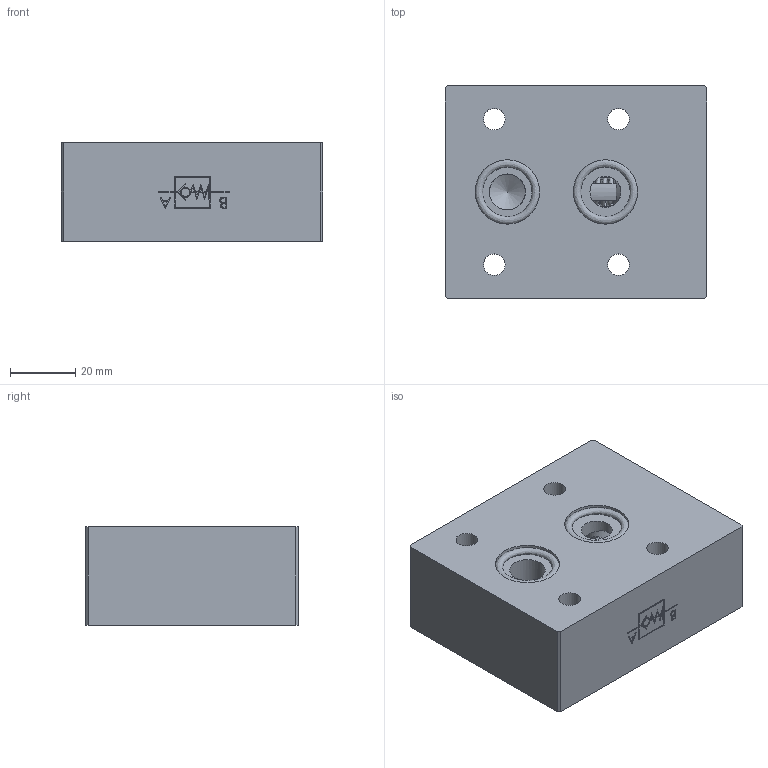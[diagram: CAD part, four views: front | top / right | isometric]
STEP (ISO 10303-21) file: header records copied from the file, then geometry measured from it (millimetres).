
FILE_DESCRIPTION (( 'STEP AP214' ), '1' );
FILE_NAME ('280-6-12.STEP', '2025-10-02T07:26:09', ( '' ), ( '' ), 'SwSTEP 2.0', 'SolidWorks 2025', '' );
FILE_SCHEMA (( 'AUTOMOTIVE_DESIGN' ));
Length unit declared in the file: millimetre
Products named in the file (8): CORPO VALVOLA 280-6.001.00.0-12; GUIDA SFERA 260-6.011.00-12; 280-6-12; TAPPO 280-5.021.00.0-12; OR 119; MOLLA CILINDRICA 260-6.009.00-12_COMPRESSA; SFERA 15-32 POLLICE (11.906mm); OR 123
Assembly tree (8 placements, depth 2):
  280-6-12
    CORPO VALVOLA 280-6.001.00.0-12
    OR 119  x2
    TAPPO 280-5.021.00.0-12
    OR 123
    GUIDA SFERA 260-6.011.00-12
    MOLLA CILINDRICA 260-6.009.00-12_COMPRESSA
    SFERA 15-32 POLLICE (11.906mm)
Bounding box: 80 x 65 x 30 mm (x, y, z)
Volume: 140630.9 mm3; surface area: 34990.4 mm2
Topology: 8 solids, 8 shells, 692 faces, 1798 edges, 1170 vertices
Faces by surface type: plane 428, bspline 125, cylinder 80, cone 57, torus 1, sphere 1
Full cylindrical faces by diameter (mm): 2.562 x1, 4.5 x1, 6.6 x4, 9.5 x1, 9.7 x2, 10 x2, 11 x5, 18 x1, 19 x2, 19.7 x2, 20.85 x1, 25 x1, 26 x1
Entity records: 36387 total; most frequent: CARTESIAN_POINT 20520, ORIENTED_EDGE 3416, DIRECTION 2709, EDGE_CURVE 1708, VERTEX_POINT 1155, VECTOR 1131, LINE 1131, EDGE_LOOP 845
